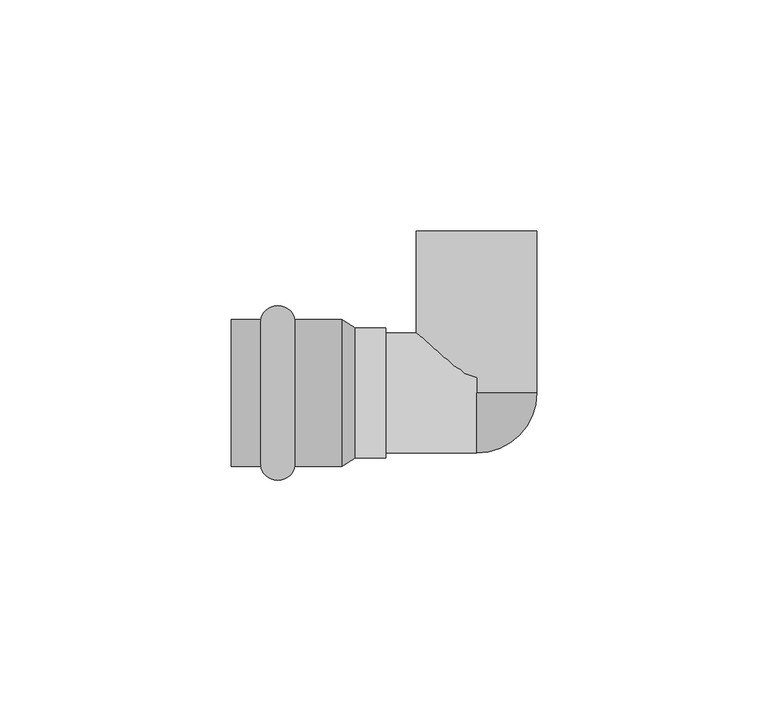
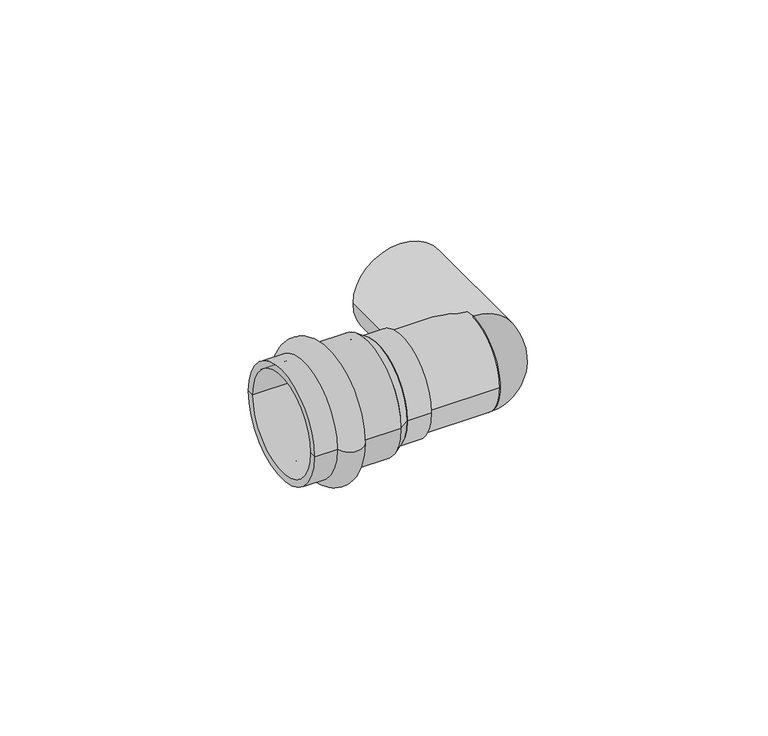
"""IFC4 building model written with IfcOpenShell, lengths in millimetres: pipe fitting geometry, VALTEC_VTi.952.I_Угольник с переходом на внутреннюю резьбу нержавеющая сталь : VTi.952.I."""

from ifc_helpers import new_model, si_unit, point, frame, origin, origin_2d, place, context, project, spatial, polyline, circle_curve, ellipse_curve, trimmed, segment, composite_curve, outline, extrude, source, transform, mapped, element, save
from ifc_brep_helpers import plane_surface, cylinder_surface, revolved_surface, advanced_brep


def pipe_fitting_43b930e3(model_context):
    return source(origin(), model_context, "Body", "SolidModel", [
        advanced_brep(
        [(-46.6242346, -15.9, 0.0), (-46.6242346, 15.9, 0.0), (-39.2757654, 15.9, 0.0), (-39.2757654, -15.9, 0.0), (-53.0, -15.9, 0.0), (-53.0, 15.9, 0.0), (-53.0, -14.0, 0.0), (-53.0, 14.0, 0.0), (-29.15, -14.0, 0.0), (-29.15, 14.0, 0.0), (-29.15, -15.9, 0.0), (-29.15, 15.9, 0.0)],
        [
            (0, 1, circle_curve(frame((-46.6242346, 0.0, 0.0), z_axis=(1.0, 0.0, 0.0), x_axis=(0.0, 1.0, 0.0)), 15.9)),
            (1, 2, circle_curve(frame((-42.95, 15.15, 0.0), z_axis=(0.0, 0.0, -1.0), x_axis=(1.0, 0.0, 0.0)), 3.75)),
            (2, 3, circle_curve(frame((-39.2757654, 0.0, 0.0), z_axis=(-1.0, 0.0, 0.0), x_axis=(0.0, 1.0, 0.0)), 15.9)),
            (3, 0, circle_curve(frame((-42.95, -15.15, 0.0), z_axis=(0.0, 0.0, -1.0), x_axis=(1.0, 0.0, 0.0)), 3.75)),
            (1, 0, circle_curve(frame((-46.6242346, 0.0, 0.0), z_axis=(1.0, 0.0, 0.0), x_axis=(0.0, 1.0, 0.0)), 15.9)),
            (3, 2, circle_curve(frame((-39.2757654, 0.0, 0.0), z_axis=(-1.0, 0.0, 0.0), x_axis=(0.0, 1.0, 0.0)), 15.9)),
            (4, 5, circle_curve(frame((-53.0, 0.0, 0.0), z_axis=(1.0, 0.0, 0.0), x_axis=(0.0, 1.0, 0.0)), 15.9)),
            (5, 1),
            (0, 4),
            (5, 4, circle_curve(frame((-53.0, 0.0, 0.0), z_axis=(1.0, 0.0, 0.0), x_axis=(0.0, 1.0, 0.0)), 15.9)),
            (6, 7, circle_curve(frame((-53.0, 0.0, 0.0), z_axis=(1.0, 0.0, 0.0), x_axis=(0.0, 1.0, 0.0)), 14.0)),
            (7, 5),
            (4, 6),
            (7, 6, circle_curve(frame((-53.0, 0.0, 0.0), z_axis=(1.0, 0.0, 0.0), x_axis=(0.0, 1.0, 0.0)), 14.0)),
            (8, 9, circle_curve(frame((-29.15, 0.0, 0.0), z_axis=(1.0, 0.0, 0.0), x_axis=(0.0, 1.0, 0.0)), 14.0)),
            (9, 7),
            (6, 8),
            (9, 8, circle_curve(frame((-29.15, 0.0, 0.0), z_axis=(1.0, 0.0, 0.0), x_axis=(0.0, 1.0, 0.0)), 14.0)),
            (10, 11, circle_curve(frame((-29.15, 0.0, 0.0), z_axis=(1.0, 0.0, 0.0), x_axis=(0.0, 1.0, 0.0)), 15.9)),
            (11, 9),
            (8, 10),
            (11, 10, circle_curve(frame((-29.15, 0.0, 0.0), z_axis=(1.0, 0.0, 0.0), x_axis=(0.0, 1.0, 0.0)), 15.9)),
            (2, 11),
            (10, 3),
        ],
        [
            revolved_surface(trimmed(ellipse_curve(frame((-42.95, 15.15, 0.0), z_axis=(0.0, 0.0, 1.0), x_axis=(1.0, 0.0, 0.0)), 3.75, 3.75), [point((-39.2757654, 15.9, 0.0))], [point((-46.6242346, 15.9, 0.0))], True, "CARTESIAN"), (-56.5364426, 0.0, 0.0), (-1.0, 0.0, 0.0)),
            cylinder_surface(frame((-56.5364426, 0.0, 0.0), z_axis=(-1.0, 0.0, 0.0), x_axis=(0.0, 1.0, 0.0)), 15.9),
            plane_surface(frame((-53.0, 0.0, 0.0), z_axis=(-1.0, 0.0, 0.0), x_axis=(0.0, 1.0, 0.0))),
            revolved_surface(polyline([(-53.0, 14.0, 0.0), (-29.15, 14.0, 0.0)]), (-56.5364426, 0.0, 0.0), (-1.0, 0.0, 0.0)),
            plane_surface(frame((-29.15, 0.0, 0.0), z_axis=(1.0, 0.0, 0.0), x_axis=(0.0, 1.0, 0.0))),
        ],
        [
            (0, [[1, 2, 3, 4]]),
            (0, [[5, -4, 6, -2]]),
            (1, [[7, 8, -1, 9]]),
            (1, [[10, -9, -5, -8]]),
            (2, [[11, 12, -7, 13]]),
            (2, [[14, -13, -10, -12]]),
            (3, [[15, 16, -11, 17]]),
            (3, [[18, -17, -14, -16]]),
            (4, [[19, 20, -15, 21]]),
            (4, [[22, -21, -18, -20]]),
            (1, [[-3, 23, -19, 24]]),
            (1, [[-6, -24, -22, -23]]),
        ],
    ),
        advanced_brep(
        [(0.0, 0.0, -13.0), (0.0, 0.0, 13.0)],
        [
            (0, 1, circle_curve(frame((0.0, 0.0, 0.0), z_axis=(-1.0, 0.0, 0.0), x_axis=(0.0, -1.0, 0.0)), 13.0)),
            (1, 0),
            (1, 0, circle_curve(frame((0.0, 0.0, 0.0), z_axis=(0.0, 1.0, 0.0), x_axis=(1.0, 0.0, 0.0)), 13.0)),
        ],
        [
            plane_surface(frame((0.0, 0.0, 1.732782), z_axis=(-1.0, 0.0, 0.0), x_axis=(0.0, -1.0, 0.0))),
            plane_surface(frame((0.0, 0.0, 1.732782), z_axis=(0.0, 1.0, 0.0), x_axis=(1.0, 0.0, 0.0))),
            revolved_surface(trimmed(ellipse_curve(frame((0.0, 0.0, 0.0), z_axis=(-1.0, 0.0, 0.0), x_axis=(0.0, -1.0, 0.0)), 13.0, 13.0), [point((0.0, 0.0, -13.0))], [point((0.0, 0.0, 13.0))], True, "CARTESIAN"), (0.0, 0.0, 1.732782), (0.0, 0.0, 1.0)),
        ],
        [
            (0, [[1, 2]]),
            (1, [[3, -2]]),
            (2, [[-1, -3]]),
        ],
    ),
        extrude(outline(composite_curve([segment(trimmed(circle_curve(origin_2d(), 13.0), [point((-13.0, 0.0))], [point((13.0, 0.0))], False, "CARTESIAN"), True, "CONTINUOUS"), segment(trimmed(circle_curve(origin_2d(), 13.0), [point((13.0, 0.0))], [point((-13.0, 0.0))], False, "CARTESIAN"), True, "CONTINUOUS")], self_intersect=False)), frame((-19.6390217, 0.0, 0.0), z_axis=(1.0, 0.0, 0.0), x_axis=(0.0, 1.0, 0.0)), (0.0, 0.0, 1.0), 19.6390217),
        extrude(outline(composite_curve([segment(trimmed(circle_curve(origin_2d(), 13.0), [point((0.0, -13.0))], [point((0.0, 13.0))], False, "CARTESIAN"), True, "CONTINUOUS"), segment(trimmed(circle_curve(origin_2d(), 13.0), [point((0.0, 13.0))], [point((0.0, -13.0))], False, "CARTESIAN"), True, "CONTINUOUS")], self_intersect=False), holes=[composite_curve([segment(trimmed(circle_curve(origin_2d(), 10.0), [point((0.0, -10.0))], [point((0.0, 10.0))], True, "CARTESIAN"), True, "CONTINUOUS"), segment(trimmed(circle_curve(origin_2d(), 10.0), [point((0.0, 10.0))], [point((0.0, -10.0))], True, "CARTESIAN"), True, "CONTINUOUS")], self_intersect=False)]), frame((0.0, 0.0, 0.0), z_axis=(0.0, 1.0, 0.0), x_axis=(0.0, 0.0, 1.0)), (0.0, 0.0, 1.0), 35.0),
        extrude(outline(composite_curve([segment(trimmed(circle_curve(origin_2d(), 14.0), [point((-14.0, 0.0))], [point((14.0, 0.0))], False, "CARTESIAN"), True, "CONTINUOUS"), segment(trimmed(circle_curve(origin_2d(), 14.0), [point((14.0, 0.0))], [point((-14.0, 0.0))], False, "CARTESIAN"), True, "CONTINUOUS")], self_intersect=False)), frame((-26.235, 0.0, 0.0), z_axis=(1.0, 0.0, 0.0), x_axis=(0.0, 1.0, 0.0)), (0.0, 0.0, 1.0), 6.5959783),
        advanced_brep(
        [(-29.15, -15.9, 0.0), (-29.15, 15.9, 0.0), (-26.235, -14.0, 0.0), (-26.235, 14.0, 0.0)],
        [
            (0, 1, circle_curve(frame((-29.15, 0.0, 0.0), z_axis=(-1.0, 0.0, 0.0), x_axis=(0.0, -1.0, 0.0)), 15.9)),
            (1, 0, circle_curve(frame((-29.15, 0.0, 0.0), z_axis=(-1.0, 0.0, 0.0), x_axis=(0.0, 1.0, 0.0)), 15.9)),
            (2, 3, circle_curve(frame((-26.235, 0.0, 0.0), z_axis=(1.0, 0.0, 0.0), x_axis=(0.0, 1.0, 0.0)), 14.0)),
            (3, 2, circle_curve(frame((-26.235, 0.0, 0.0), z_axis=(1.0, 0.0, 0.0), x_axis=(0.0, -1.0, 0.0)), 14.0)),
            (2, 0),
            (1, 3),
        ],
        [
            plane_surface(frame((-29.15, 0.0, 0.0), z_axis=(-1.0, 0.0, 0.0), x_axis=(0.0, 0.0, -1.0))),
            plane_surface(frame((-26.235, 0.0, 0.0), z_axis=(1.0, 0.0, 0.0), x_axis=(0.0, 0.0, -1.0))),
            revolved_surface(polyline([(-26.235, -14.000000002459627, 0.0), (-29.15, -15.9, 0.0)]), (-4.7560526, 0.0, 0.0), (-1.0, 0.0, 0.0)),
            revolved_surface(polyline([(-26.235, 14.000000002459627, 0.0), (-29.15, 15.9, 0.0)]), (-4.7560526, 0.0, 0.0), (-1.0, 0.0, 0.0)),
        ],
        [
            (0, [[1, 2]]),
            (1, [[3, 4]]),
            (2, [[-3, 5, -2, 6]]),
            (3, [[-4, -6, -1, -5]]),
        ],
    ),
    ])


if __name__ == "__main__":
    model = new_model("IFC4")
    model_context = context("Model", 3, world=origin())
    ifc_project = project(units=[si_unit("LENGTHUNIT", "METRE", prefix="MILLI")], contexts=[model_context])
    site = spatial("IfcSite", under=ifc_project)
    building = spatial("IfcBuilding", under=site)
    placement = place(None, origin())
    pipe_fitting_shape = pipe_fitting_43b930e3(model_context)
    element("IfcPipeFitting", 1, ObjectType="VALTEC_VTi.952.I_Угольник с переходом на внутреннюю резьбу нержавеющая сталь : VTi.952.I", at=placement, inside=building, context=model_context, shape_type="MappedRepresentation", body=[
        mapped(pipe_fitting_shape, transform((0.0, 0.0, 0.0), x_axis=(1.0, 0.0, 0.0), y_axis=(0.0, 1.0, 0.0), z_axis=(0.0, 0.0, 1.0))),
    ])
    save(model, "model.ifc")
